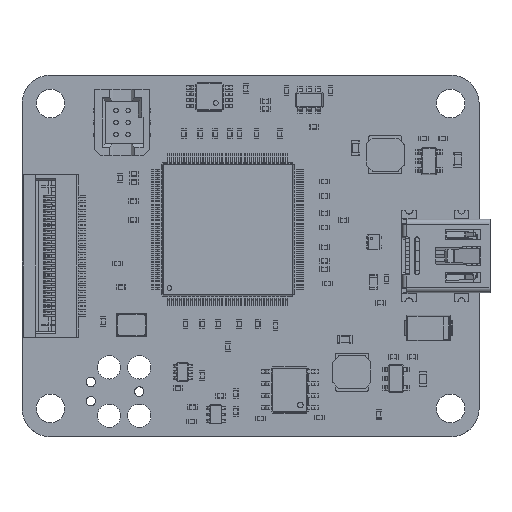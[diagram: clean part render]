
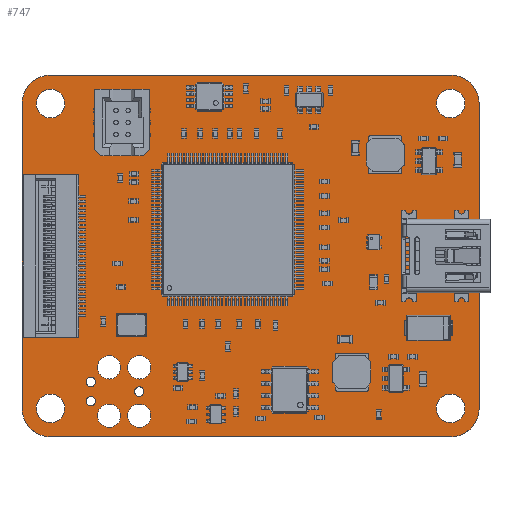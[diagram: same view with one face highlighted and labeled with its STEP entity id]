
A CAD part, top view. The second image highlights one B-rep face of the part: STEP entity #747.
In plain terms, the highlighted planar face has unit normal (0, 0, 1).
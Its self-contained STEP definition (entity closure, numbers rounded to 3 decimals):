
#67 = VERTEX_POINT('',#68);
#68 = CARTESIAN_POINT('',(124.501,-89.004,0.));
#85 = VERTEX_POINT('',#86);
#86 = CARTESIAN_POINT('',(124.501,-121.004,0.));
#92 = EDGE_CURVE('',#67,#85,#93,.T.);
#93 = LINE('',#94,#95);
#94 = CARTESIAN_POINT('',(124.501,-89.004,0.));
#95 = VECTOR('',#96,1.);
#96 = DIRECTION('',(0.,-1.,0.));
#106 = EDGE_CURVE('',#67,#107,#109,.T.);
#107 = VERTEX_POINT('',#108);
#108 = CARTESIAN_POINT('',(127.501,-86.004,0.));
#109 = CIRCLE('',#110,3.);
#110 = AXIS2_PLACEMENT_3D('',#111,#112,#113);
#111 = CARTESIAN_POINT('',(127.501,-89.004,0.));
#112 = DIRECTION('',(0.,0.,-1.));
#113 = DIRECTION('',(-1.,0.,0.));
#139 = EDGE_CURVE('',#140,#85,#142,.T.);
#140 = VERTEX_POINT('',#141);
#141 = CARTESIAN_POINT('',(127.501,-124.004,0.));
#142 = CIRCLE('',#143,3.);
#143 = AXIS2_PLACEMENT_3D('',#144,#145,#146);
#144 = CARTESIAN_POINT('',(127.501,-121.004,0.));
#145 = DIRECTION('',(0.,0.,-1.));
#146 = DIRECTION('',(0.,-1.,-0.));
#173 = VERTEX_POINT('',#174);
#174 = CARTESIAN_POINT('',(169.501,-86.004,0.));
#189 = EDGE_CURVE('',#173,#107,#190,.T.);
#190 = LINE('',#191,#192);
#191 = CARTESIAN_POINT('',(169.501,-86.004,0.));
#192 = VECTOR('',#193,1.);
#193 = DIRECTION('',(-1.,0.,0.));
#213 = VERTEX_POINT('',#214);
#214 = CARTESIAN_POINT('',(169.501,-124.004,0.));
#220 = EDGE_CURVE('',#140,#213,#221,.T.);
#221 = LINE('',#222,#223);
#222 = CARTESIAN_POINT('',(127.501,-124.004,0.));
#223 = VECTOR('',#224,1.);
#224 = DIRECTION('',(1.,0.,0.));
#234 = EDGE_CURVE('',#173,#235,#237,.T.);
#235 = VERTEX_POINT('',#236);
#236 = CARTESIAN_POINT('',(172.501,-89.004,0.));
#237 = CIRCLE('',#238,3.);
#238 = AXIS2_PLACEMENT_3D('',#239,#240,#241);
#239 = CARTESIAN_POINT('',(169.501,-89.004,0.));
#240 = DIRECTION('',(0.,0.,-1.));
#241 = DIRECTION('',(0.,1.,0.));
#267 = EDGE_CURVE('',#268,#213,#270,.T.);
#268 = VERTEX_POINT('',#269);
#269 = CARTESIAN_POINT('',(172.501,-121.004,0.));
#270 = CIRCLE('',#271,3.);
#271 = AXIS2_PLACEMENT_3D('',#272,#273,#274);
#272 = CARTESIAN_POINT('',(169.501,-121.004,0.));
#273 = DIRECTION('',(0.,0.,-1.));
#274 = DIRECTION('',(1.,0.,0.));
#308 = EDGE_CURVE('',#268,#235,#309,.T.);
#309 = LINE('',#310,#311);
#310 = CARTESIAN_POINT('',(172.501,-121.004,0.));
#311 = VECTOR('',#312,1.);
#312 = DIRECTION('',(0.,1.,0.));
#323 = VERTEX_POINT('',#324);
#324 = CARTESIAN_POINT('',(129.001,-121.004,0.));
#340 = EDGE_CURVE('',#323,#323,#341,.T.);
#341 = CIRCLE('',#342,1.5);
#342 = AXIS2_PLACEMENT_3D('',#343,#344,#345);
#343 = CARTESIAN_POINT('',(127.501,-121.004,0.));
#344 = DIRECTION('',(0.,0.,1.));
#345 = DIRECTION('',(1.,0.,-0.));
#356 = VERTEX_POINT('',#357);
#357 = CARTESIAN_POINT('',(134.864,-121.781,0.));
#373 = EDGE_CURVE('',#356,#356,#374,.T.);
#374 = CIRCLE('',#375,1.225);
#375 = AXIS2_PLACEMENT_3D('',#376,#377,#378);
#376 = CARTESIAN_POINT('',(133.639,-121.781,0.));
#377 = DIRECTION('',(0.,0.,1.));
#378 = DIRECTION('',(1.,0.,-0.));
#389 = VERTEX_POINT('',#390);
#390 = CARTESIAN_POINT('',(138.039,-121.781,0.));
#406 = EDGE_CURVE('',#389,#389,#407,.T.);
#407 = CIRCLE('',#408,1.225);
#408 = AXIS2_PLACEMENT_3D('',#409,#410,#411);
#409 = CARTESIAN_POINT('',(136.814,-121.781,0.));
#410 = DIRECTION('',(0.,0.,1.));
#411 = DIRECTION('',(1.,0.,-0.));
#422 = VERTEX_POINT('',#423);
#423 = CARTESIAN_POINT('',(132.229,-120.257,0.));
#439 = EDGE_CURVE('',#422,#422,#440,.T.);
#440 = CIRCLE('',#441,0.495);
#441 = AXIS2_PLACEMENT_3D('',#442,#443,#444);
#442 = CARTESIAN_POINT('',(131.734,-120.257,0.));
#443 = DIRECTION('',(0.,0.,1.));
#444 = DIRECTION('',(1.,0.,-0.));
#455 = VERTEX_POINT('',#456);
#456 = CARTESIAN_POINT('',(137.309,-119.241,0.));
#472 = EDGE_CURVE('',#455,#455,#473,.T.);
#473 = CIRCLE('',#474,0.495);
#474 = AXIS2_PLACEMENT_3D('',#475,#476,#477);
#475 = CARTESIAN_POINT('',(136.814,-119.241,0.));
#476 = DIRECTION('',(0.,0.,1.));
#477 = DIRECTION('',(1.,0.,-0.));
#488 = VERTEX_POINT('',#489);
#489 = CARTESIAN_POINT('',(132.229,-118.225,0.));
#505 = EDGE_CURVE('',#488,#488,#506,.T.);
#506 = CIRCLE('',#507,0.495);
#507 = AXIS2_PLACEMENT_3D('',#508,#509,#510);
#508 = CARTESIAN_POINT('',(131.734,-118.225,0.));
#509 = DIRECTION('',(0.,0.,1.));
#510 = DIRECTION('',(1.,0.,-0.));
#521 = VERTEX_POINT('',#522);
#522 = CARTESIAN_POINT('',(134.864,-116.701,0.));
#538 = EDGE_CURVE('',#521,#521,#539,.T.);
#539 = CIRCLE('',#540,1.225);
#540 = AXIS2_PLACEMENT_3D('',#541,#542,#543);
#541 = CARTESIAN_POINT('',(133.639,-116.701,0.));
#542 = DIRECTION('',(0.,0.,1.));
#543 = DIRECTION('',(1.,0.,-0.));
#554 = VERTEX_POINT('',#555);
#555 = CARTESIAN_POINT('',(138.039,-116.701,0.));
#571 = EDGE_CURVE('',#554,#554,#572,.T.);
#572 = CIRCLE('',#573,1.225);
#573 = AXIS2_PLACEMENT_3D('',#574,#575,#576);
#574 = CARTESIAN_POINT('',(136.814,-116.701,0.));
#575 = DIRECTION('',(0.,0.,1.));
#576 = DIRECTION('',(1.,0.,-0.));
#587 = VERTEX_POINT('',#588);
#588 = CARTESIAN_POINT('',(171.001,-121.004,0.));
#604 = EDGE_CURVE('',#587,#587,#605,.T.);
#605 = CIRCLE('',#606,1.5);
#606 = AXIS2_PLACEMENT_3D('',#607,#608,#609);
#607 = CARTESIAN_POINT('',(169.501,-121.004,0.));
#608 = DIRECTION('',(0.,0.,1.));
#609 = DIRECTION('',(1.,0.,-0.));
#620 = VERTEX_POINT('',#621);
#621 = CARTESIAN_POINT('',(168.191,-107.204,0.));
#637 = EDGE_CURVE('',#620,#620,#638,.T.);
#638 = CIRCLE('',#639,0.45);
#639 = AXIS2_PLACEMENT_3D('',#640,#641,#642);
#640 = CARTESIAN_POINT('',(167.741,-107.204,0.));
#641 = DIRECTION('',(0.,0.,1.));
#642 = DIRECTION('',(1.,0.,-0.));
#653 = VERTEX_POINT('',#654);
#654 = CARTESIAN_POINT('',(129.001,-89.004,0.));
#670 = EDGE_CURVE('',#653,#653,#671,.T.);
#671 = CIRCLE('',#672,1.5);
#672 = AXIS2_PLACEMENT_3D('',#673,#674,#675);
#673 = CARTESIAN_POINT('',(127.501,-89.004,0.));
#674 = DIRECTION('',(0.,0.,1.));
#675 = DIRECTION('',(1.,0.,-0.));
#686 = VERTEX_POINT('',#687);
#687 = CARTESIAN_POINT('',(168.191,-102.804,0.));
#703 = EDGE_CURVE('',#686,#686,#704,.T.);
#704 = CIRCLE('',#705,0.45);
#705 = AXIS2_PLACEMENT_3D('',#706,#707,#708);
#706 = CARTESIAN_POINT('',(167.741,-102.804,0.));
#707 = DIRECTION('',(0.,0.,1.));
#708 = DIRECTION('',(1.,0.,-0.));
#719 = VERTEX_POINT('',#720);
#720 = CARTESIAN_POINT('',(171.001,-89.004,0.));
#736 = EDGE_CURVE('',#719,#719,#737,.T.);
#737 = CIRCLE('',#738,1.5);
#738 = AXIS2_PLACEMENT_3D('',#739,#740,#741);
#739 = CARTESIAN_POINT('',(169.501,-89.004,0.));
#740 = DIRECTION('',(0.,0.,1.));
#741 = DIRECTION('',(1.,0.,-0.));
#747 = ADVANCED_FACE('',(#748,#758,#761,#764,#767,#770,#773,#776,#779,
    #782,#785,#788,#791,#794),#797,.T.);
#748 = FACE_BOUND('',#749,.T.);
#749 = EDGE_LOOP('',(#750,#751,#752,#753,#754,#755,#756,#757));
#750 = ORIENTED_EDGE('',*,*,#92,.T.);
#751 = ORIENTED_EDGE('',*,*,#139,.F.);
#752 = ORIENTED_EDGE('',*,*,#220,.T.);
#753 = ORIENTED_EDGE('',*,*,#267,.F.);
#754 = ORIENTED_EDGE('',*,*,#308,.T.);
#755 = ORIENTED_EDGE('',*,*,#234,.F.);
#756 = ORIENTED_EDGE('',*,*,#189,.T.);
#757 = ORIENTED_EDGE('',*,*,#106,.F.);
#758 = FACE_BOUND('',#759,.T.);
#759 = EDGE_LOOP('',(#760));
#760 = ORIENTED_EDGE('',*,*,#340,.F.);
#761 = FACE_BOUND('',#762,.T.);
#762 = EDGE_LOOP('',(#763));
#763 = ORIENTED_EDGE('',*,*,#373,.F.);
#764 = FACE_BOUND('',#765,.T.);
#765 = EDGE_LOOP('',(#766));
#766 = ORIENTED_EDGE('',*,*,#406,.F.);
#767 = FACE_BOUND('',#768,.T.);
#768 = EDGE_LOOP('',(#769));
#769 = ORIENTED_EDGE('',*,*,#439,.F.);
#770 = FACE_BOUND('',#771,.T.);
#771 = EDGE_LOOP('',(#772));
#772 = ORIENTED_EDGE('',*,*,#472,.F.);
#773 = FACE_BOUND('',#774,.T.);
#774 = EDGE_LOOP('',(#775));
#775 = ORIENTED_EDGE('',*,*,#505,.F.);
#776 = FACE_BOUND('',#777,.T.);
#777 = EDGE_LOOP('',(#778));
#778 = ORIENTED_EDGE('',*,*,#538,.F.);
#779 = FACE_BOUND('',#780,.T.);
#780 = EDGE_LOOP('',(#781));
#781 = ORIENTED_EDGE('',*,*,#571,.F.);
#782 = FACE_BOUND('',#783,.T.);
#783 = EDGE_LOOP('',(#784));
#784 = ORIENTED_EDGE('',*,*,#604,.F.);
#785 = FACE_BOUND('',#786,.T.);
#786 = EDGE_LOOP('',(#787));
#787 = ORIENTED_EDGE('',*,*,#637,.F.);
#788 = FACE_BOUND('',#789,.T.);
#789 = EDGE_LOOP('',(#790));
#790 = ORIENTED_EDGE('',*,*,#670,.F.);
#791 = FACE_BOUND('',#792,.T.);
#792 = EDGE_LOOP('',(#793));
#793 = ORIENTED_EDGE('',*,*,#703,.F.);
#794 = FACE_BOUND('',#795,.T.);
#795 = EDGE_LOOP('',(#796));
#796 = ORIENTED_EDGE('',*,*,#736,.F.);
#797 = PLANE('',#798);
#798 = AXIS2_PLACEMENT_3D('',#799,#800,#801);
#799 = CARTESIAN_POINT('',(148.501,-105.004,0.));
#800 = DIRECTION('',(0.,0.,1.));
#801 = DIRECTION('',(1.,0.,-0.));
